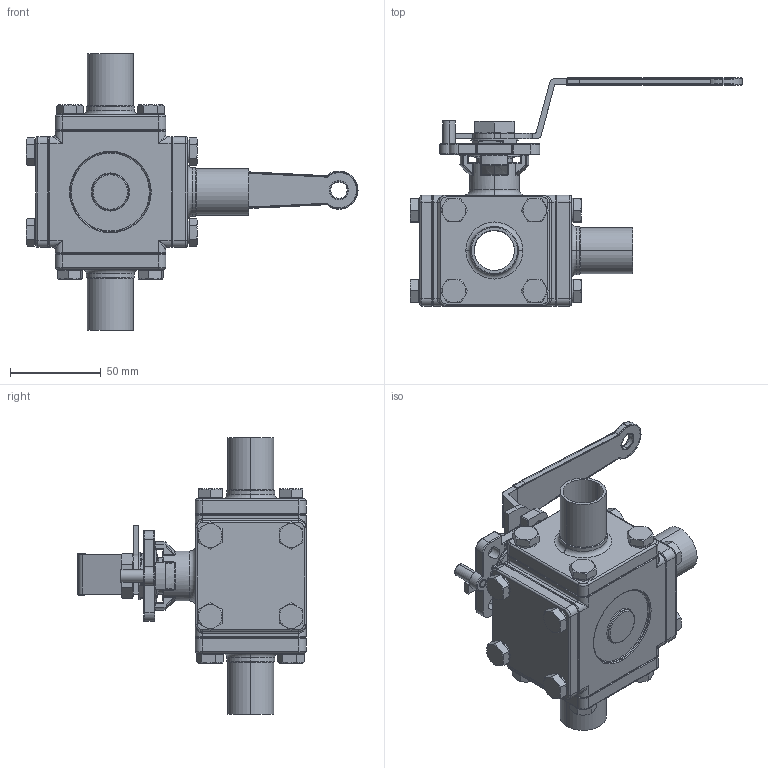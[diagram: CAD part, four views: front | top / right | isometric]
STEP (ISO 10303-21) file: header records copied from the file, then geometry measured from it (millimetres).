
FILE_DESCRIPTION (( 'STEP AP203' ), '1' );
FILE_NAME ('E93WWW-61.0-T.STEP', '2019-07-02T02:21:12', ( '' ), ( '' ), 'SwSTEP 2.0', 'SolidWorks 2014', '' );
FILE_SCHEMA (( 'CONFIG_CONTROL_DESIGN' ));
Length unit declared in the file: millimetre
Products named in the file (23): 1.3WAY-BODY1.0; 3.3WAY-BALL-1.0-T; 11.STOP PIN0.5-1.0; 10.BEVEL WASHER1.0; 20.SEAT BACK1.0; 22.SEAT-R-1.0; 6.THRUST WASHER1.0; 15.SPRING WASHER1.0; 22.SEAT-L-1.0; 18.THINNER NUT1.0; 14.HANDLE1.0; 9.RING1.0; 19.3WAY-CAP1.0; 12.3WAY-NUT1.0; E93WWW-61.0-T; 2.3WAY-CAP-W-1.0; 5.GASKET1.0; 8.STEM PACKING1.0; 16.BOLT1.0; 7.O-RING0.5-1.0; 4.SEAT1-1.0; 17.LOCKING TAB1.0; 13.STEM1.0
Assembly tree (57 placements, depth 2):
  E93WWW-61.0-T
    1.3WAY-BODY1.0
    9.RING1.0
    11.STOP PIN0.5-1.0
    13.STEM1.0
    6.THRUST WASHER1.0
    7.O-RING0.5-1.0
    8.STEM PACKING1.0
    10.BEVEL WASHER1.0  x2
    17.LOCKING TAB1.0
    18.THINNER NUT1.0
    22.SEAT-L-1.0
    22.SEAT-R-1.0
    4.SEAT1-1.0  x2
    20.SEAT BACK1.0
    5.GASKET1.0  x2
    19.3WAY-CAP1.0
    15.SPRING WASHER1.0  x16
    16.BOLT1.0  x16
    14.HANDLE1.0
    12.3WAY-NUT1.0
    3.3WAY-BALL-1.0-T
    2.3WAY-CAP-W-1.0  x3
Bounding box: 183 x 125.69 x 152.4 mm (x, y, z)
Volume: 415986.1 mm3; surface area: 179786.9 mm2
Topology: 58 solids, 58 shells, 1501 faces, 3387 edges, 1996 vertices
Faces by surface type: cylinder 560, plane 398, cone 234, torus 202, sphere 57, bspline 50
Entity records: 34519 total; most frequent: CARTESIAN_POINT 8205, DIRECTION 5285, ORIENTED_EDGE 4534, EDGE_CURVE 2267, AXIS2_PLACEMENT_3D 2242, VERTEX_POINT 1342, CIRCLE 1238, EDGE_LOOP 1101
